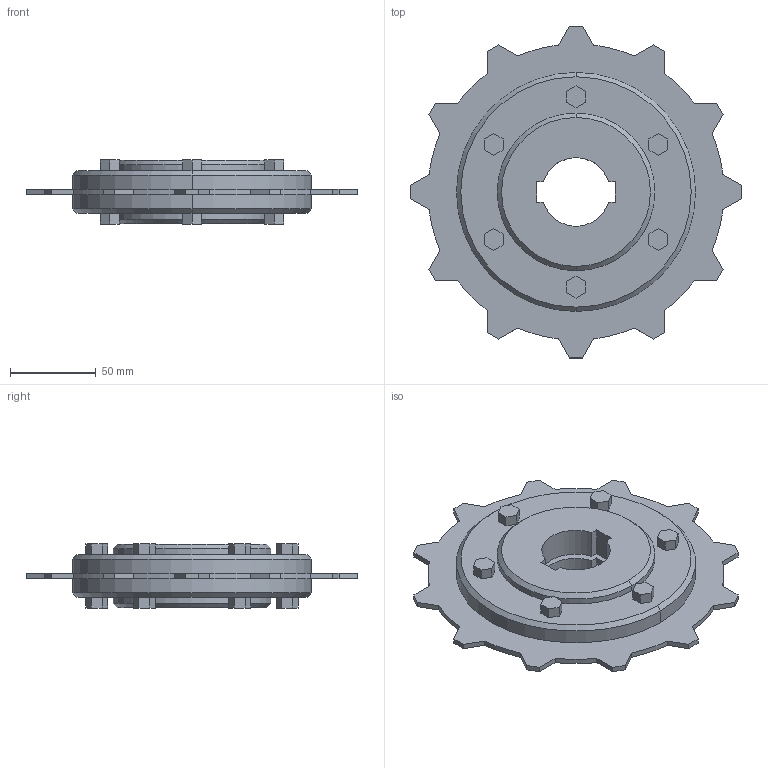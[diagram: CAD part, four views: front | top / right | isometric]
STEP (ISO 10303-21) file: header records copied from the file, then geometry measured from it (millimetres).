
FILE_DESCRIPTION((''),'2;1');
FILE_NAME('S400_SPL_METAL_78_ROUND_ASM','2008-12-12T',('jmumphre'),(''),'PRO/ENGINEER BY PARAMETRIC TECHNOLOGY CORPORATION, 2008150','PRO/ENGINEER BY PARAMETRIC TECHNOLOGY CORPORATION, 2008150','');
FILE_SCHEMA(('CONFIG_CONTROL_DESIGN'));
Length unit declared in the file: inch
Products named in the file (5): S400_TP_METAL_78X26_SQ_AF1; JOINING_PLATE_6_ROUND_AF2; JOINING_PLATE_6_ROUND_AF3; BOLTS_N_NUTS_4-376X0-980_AF1; S400_SPL_METAL_78_ROUND_ASM
Assembly tree (4 placements, depth 2):
  S400_SPL_METAL_78_ROUND_ASM
    S400_TP_METAL_78X26_SQ_AF1
    JOINING_PLATE_6_ROUND_AF2
    JOINING_PLATE_6_ROUND_AF3
    BOLTS_N_NUTS_4-376X0-980_AF1
Bounding box: 194.01 x 194.01 x 37.59 mm (x, y, z)
Volume: 437635.6 mm3; surface area: 126414.7 mm2
Topology: 9 solids, 9 shells, 236 faces, 604 edges, 400 vertices
Faces by surface type: plane 156, cylinder 72, cone 8
Entity records: 7349 total; most frequent: CARTESIAN_POINT 1249, DIRECTION 1246, ORIENTED_EDGE 1208, EDGE_CURVE 604, VECTOR 452, LINE 452, VERTEX_POINT 400, AXIS2_PLACEMENT_3D 397
